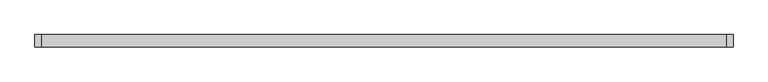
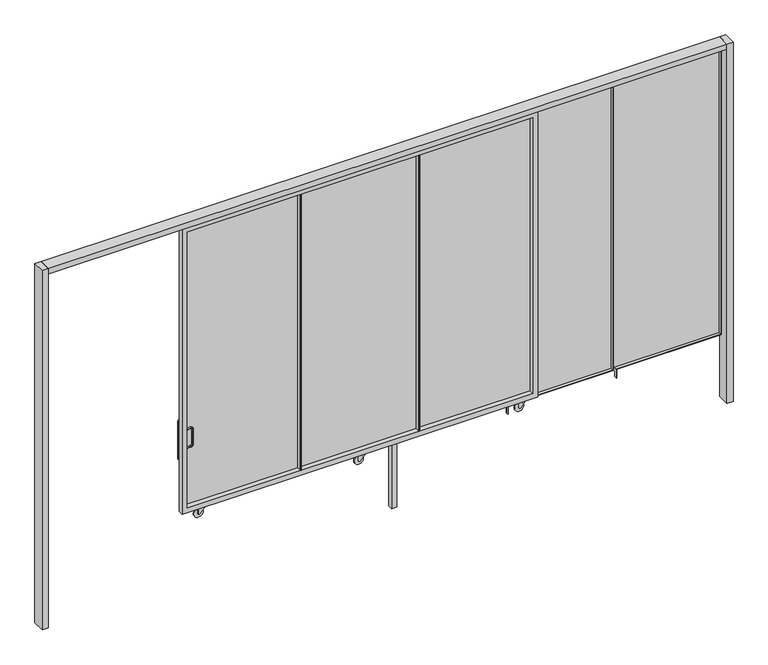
"""IFC4 building model written with IfcOpenShell, lengths in millimetres: furniture geometry, H102 Portón corredizo vehicular : H102 Portón corredizo vehicular."""

from ifc_helpers import new_model, si_unit, point, frame, frame_2d, origin, place, context, project, spatial, polyline, circle_curve, ellipse_curve, trimmed, segment, composite_curve, outline, extrude, source, transform, mapped, element, save
from ifc_brep_helpers import plane_surface, cylinder_surface, revolved_surface, advanced_brep


def furniture_f331ff0f(model_context):
    return source(origin(), model_context, "Body", "SolidModel", [
        extrude(outline(polyline([(-201.1024258, 23.0), (-271.1024258, 23.0), (-271.1024258, 47.0), (-201.1024258, 47.0), (-201.1024258, 23.0)])), frame((0.0, 0.0, 102.0), z_axis=(0.0, 0.0, 1.0), x_axis=(1.0, 0.0, 0.0)), (0.0, 0.0, 1.0), 3.0),
        extrude(outline(composite_curve([segment(polyline([(105.0, -271.1024258), (45.0, -271.1024258)]), True, "CONTINUOUS"), segment(trimmed(circle_curve(frame_2d((45.0, -261.1024258)), 10.0), [point((45.0, -271.1024258))], [point((38.2006885, -253.7696662))], False, "CARTESIAN"), True, "CONTINUOUS"), segment(polyline([(38.2006885, -253.7696662), (95.0, -201.1024258), (105.0, -201.1024258), (105.0, -271.1024258)]), True, "CONTINUOUS")], self_intersect=False)), frame((0.0, 20.0, 0.0), z_axis=(0.0, 1.0, 0.0), x_axis=(0.0, 0.0, 1.0)), (0.0, 0.0, 1.0), 3.0),
        extrude(outline(composite_curve([segment(polyline([(105.0, -271.1024258), (45.0, -271.1024258)]), True, "CONTINUOUS"), segment(trimmed(circle_curve(frame_2d((45.0, -261.1024258)), 10.0), [point((45.0, -271.1024258))], [point((38.2006885, -253.7696662))], False, "CARTESIAN"), True, "CONTINUOUS"), segment(polyline([(38.2006885, -253.7696662), (95.0, -201.1024258), (105.0, -201.1024258), (105.0, -271.1024258)]), True, "CONTINUOUS")], self_intersect=False)), frame((0.0, 47.0, 0.0), z_axis=(0.0, 1.0, 0.0), x_axis=(0.0, 0.0, 1.0)), (0.0, 0.0, 1.0), 3.0),
        extrude(outline(composite_curve([segment(trimmed(circle_curve(frame_2d((45.0, -261.1024258)), 45.0), [point((45.0, -306.1024258))], [point((45.0, -216.1024258))], False, "CARTESIAN"), True, "CONTINUOUS"), segment(trimmed(circle_curve(frame_2d((45.0, -261.1024258)), 45.0), [point((45.0, -216.1024258))], [point((45.0, -306.1024258))], False, "CARTESIAN"), True, "CONTINUOUS")], self_intersect=False)), frame((0.0, 30.0, 0.0), z_axis=(0.0, 1.0, 0.0), x_axis=(0.0, 0.0, 1.0)), (0.0, 0.0, 1.0), 10.0),
        advanced_brep(
        [(-1933.6024258, 14.0, 949.0), (-1933.6024258, 26.0, 949.0), (-1891.6024258, 14.0, 949.0), (-1891.6024258, 26.0, 949.0), (-1877.6024258, 26.0, 935.0), (-1877.6024258, 14.0, 935.0), (-1877.6024258, 14.0, 775.0), (-1877.6024258, 26.0, 775.0), (-1933.6024258, 14.0, 761.0), (-1933.6024258, 26.0, 761.0), (-1891.6024258, 26.0, 761.0), (-1891.6024258, 14.0, 761.0)],
        [
            (0, 1, circle_curve(frame((-1933.6024258, 20.0, 949.0), z_axis=(-1.0, 0.0, 0.0), x_axis=(0.0, 1.0, 0.0)), 6.0)),
            (1, 0, circle_curve(frame((-1933.6024258, 20.0, 949.0), z_axis=(-1.0, 0.0, 0.0), x_axis=(0.0, 1.0, 0.0)), 6.0)),
            (0, 2),
            (2, 3, circle_curve(frame((-1891.6024258, 20.0, 949.0), z_axis=(-1.0, 0.0, 0.0), x_axis=(0.0, 1.0, 0.0)), 6.0)),
            (3, 1),
            (3, 2, circle_curve(frame((-1891.6024258, 20.0, 949.0), z_axis=(-1.0, 0.0, 0.0), x_axis=(0.0, 1.0, 0.0)), 6.0)),
            (4, 5, circle_curve(frame((-1877.6024258, 20.0, 935.0), z_axis=(0.0, 0.0, -1.0), x_axis=(0.0, 1.0, 0.0)), 6.0)),
            (5, 6),
            (6, 7, circle_curve(frame((-1877.6024258, 20.0, 775.0), z_axis=(0.0, 0.0, 1.0), x_axis=(0.0, 1.0, 0.0)), 6.0)),
            (7, 4),
            (5, 4, circle_curve(frame((-1877.6024258, 20.0, 935.0), z_axis=(0.0, 0.0, -1.0), x_axis=(0.0, 1.0, 0.0)), 6.0)),
            (7, 6, circle_curve(frame((-1877.6024258, 20.0, 775.0), z_axis=(0.0, 0.0, 1.0), x_axis=(0.0, 1.0, 0.0)), 6.0)),
            (8, 9, circle_curve(frame((-1933.6024258, 20.0, 761.0), z_axis=(-1.0, 0.0, 0.0), x_axis=(0.0, 1.0, 0.0)), 6.0)),
            (9, 8, circle_curve(frame((-1933.6024258, 20.0, 761.0), z_axis=(-1.0, 0.0, 0.0), x_axis=(0.0, 1.0, 0.0)), 6.0)),
            (10, 11, circle_curve(frame((-1891.6024258, 20.0, 761.0), z_axis=(-1.0, 0.0, 0.0), x_axis=(0.0, 1.0, 0.0)), 6.0)),
            (11, 8),
            (9, 10),
            (11, 10, circle_curve(frame((-1891.6024258, 20.0, 761.0), z_axis=(-1.0, 0.0, 0.0), x_axis=(0.0, 1.0, 0.0)), 6.0)),
            (4, 3, circle_curve(frame((-1891.6024258, 26.0, 935.0), z_axis=(0.0, -1.0, 0.0), x_axis=(0.0, 0.0, 1.0)), 14.0)),
            (2, 5, circle_curve(frame((-1891.6024258, 14.0, 935.0), z_axis=(0.0, 1.0, 0.0), x_axis=(0.0, 0.0, 1.0)), 14.0)),
            (10, 7, circle_curve(frame((-1891.6024258, 26.0, 775.0), z_axis=(0.0, -1.0, 0.0), x_axis=(1.0, 0.0, 0.0)), 14.0)),
            (6, 11, circle_curve(frame((-1891.6024258, 14.0, 775.0), z_axis=(0.0, 1.0, 0.0), x_axis=(1.0, 0.0, 0.0)), 14.0)),
        ],
        [
            plane_surface(frame((-1933.6024258, 20.0, 955.0), z_axis=(-1.0, 0.0, 0.0), x_axis=(0.0, 1.0, 0.0))),
            cylinder_surface(frame((-1933.6024258, 20.0, 949.0), z_axis=(-1.0, 0.0, 0.0), x_axis=(0.0, 1.0, 0.0)), 6.0),
            cylinder_surface(frame((-1877.6024258, 20.0, 935.0), z_axis=(0.0, 0.0, 1.0), x_axis=(0.0, 1.0, 0.0)), 6.0),
            plane_surface(frame((-1933.6024258, 20.0, 755.0), z_axis=(-1.0, 0.0, 0.0), x_axis=(0.0, 1.0, 0.0))),
            cylinder_surface(frame((-1891.6024258, 20.0, 761.0), z_axis=(1.0, 0.0, 0.0), x_axis=(0.0, 1.0, 0.0)), 6.0),
            revolved_surface(trimmed(ellipse_curve(frame((-1891.6024258, 20.0, 949.0), z_axis=(-1.0, 0.0, 0.0), x_axis=(0.0, 1.0, 0.0)), 6.0, 6.0), [point((-1891.6024258, 14.0, 949.0))], [point((-1891.6024258, 26.0, 949.0))], True, "CARTESIAN"), (-1891.6024258, 20.0, 935.0), (0.0, 1.0, 0.0)),
            revolved_surface(trimmed(ellipse_curve(frame((-1891.6024258, 20.0, 949.0), z_axis=(-1.0, 0.0, 0.0), x_axis=(0.0, 1.0, 0.0)), 6.0, 6.0), [point((-1891.6024258, 26.0, 949.0))], [point((-1891.6024258, 14.0, 949.0))], True, "CARTESIAN"), (-1891.6024258, 20.0, 935.0), (0.0, 1.0, 0.0)),
            revolved_surface(trimmed(ellipse_curve(frame((-1877.6024258, 20.0, 775.0), z_axis=(0.0, 0.0, 1.0), x_axis=(0.0, 1.0, 0.0)), 6.0, 6.0), [point((-1877.6024258, 14.0, 775.0))], [point((-1877.6024258, 26.0, 775.0))], True, "CARTESIAN"), (-1891.6024258, 20.0, 775.0), (0.0, 1.0, 0.0)),
            revolved_surface(trimmed(ellipse_curve(frame((-1877.6024258, 20.0, 775.0), z_axis=(0.0, 0.0, 1.0), x_axis=(0.0, 1.0, 0.0)), 6.0, 6.0), [point((-1877.6024258, 26.0, 775.0))], [point((-1877.6024258, 14.0, 775.0))], True, "CARTESIAN"), (-1891.6024258, 20.0, 775.0), (0.0, 1.0, 0.0)),
        ],
        [
            (0, [[1, 2]]),
            (1, [[-1, 3, 4, 5]]),
            (1, [[-2, -5, 6, -3]]),
            (2, [[7, 8, 9, 10]]),
            (2, [[11, -10, 12, -8]]),
            (3, [[13, 14]]),
            (4, [[15, 16, -14, 17]]),
            (4, [[18, -17, -13, -16]]),
            (5, [[19, -4, 20, -7]]),
            (6, [[-20, -6, -19, -11]]),
            (7, [[21, -9, 22, -15]]),
            (8, [[-22, -12, -21, -18]]),
        ],
    ),
        advanced_brep(
        [(-1971.3024258, 60.0, 987.0), (-1945.9024258, 60.0, 987.0), (-1945.9024258, 97.3, 987.0), (-1971.3024258, 97.3, 987.0), (-1945.9024258, 97.3, 612.4), (-1971.3024258, 97.3, 612.4), (-1971.3024258, 60.0, 612.4), (-1945.9024258, 60.0, 612.4)],
        [
            (0, 1, circle_curve(frame((-1958.6024258, 60.0, 987.0), z_axis=(0.0, -1.0, 0.0), x_axis=(1.0, 0.0, 0.0)), 12.7)),
            (1, 0, circle_curve(frame((-1958.6024258, 60.0, 987.0), z_axis=(0.0, -1.0, 0.0), x_axis=(1.0, 0.0, 0.0)), 12.7)),
            (1, 2),
            (2, 3, ellipse_curve(frame((-1958.6024258, 97.3, 987.0), z_axis=(0.0, -0.7071067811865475, 0.7071067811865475), x_axis=(0.0, -0.7071067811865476, -0.7071067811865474)), 17.9605122, 12.7)),
            (3, 0),
            (3, 2, ellipse_curve(frame((-1958.6024258, 97.3, 987.0), z_axis=(0.0, -0.7071067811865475, 0.7071067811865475), x_axis=(0.0, -0.7071067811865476, -0.7071067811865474)), 17.9605122, 12.7)),
            (2, 4),
            (4, 5, ellipse_curve(frame((-1958.6024258, 97.3, 612.4), z_axis=(0.0, 0.7071067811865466, 0.7071067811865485), x_axis=(0.0, -0.7071067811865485, 0.7071067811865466)), 17.9605122, 12.7)),
            (5, 3),
            (5, 4, ellipse_curve(frame((-1958.6024258, 97.3, 612.4), z_axis=(0.0, 0.7071067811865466, 0.7071067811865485), x_axis=(0.0, -0.7071067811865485, 0.7071067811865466)), 17.9605122, 12.7)),
            (6, 7, circle_curve(frame((-1958.6024258, 60.0, 612.4), z_axis=(0.0, -1.0, 0.0), x_axis=(1.0, 0.0, 0.0)), 12.7)),
            (7, 6, circle_curve(frame((-1958.6024258, 60.0, 612.4), z_axis=(0.0, -1.0, 0.0), x_axis=(1.0, 0.0, 0.0)), 12.7)),
            (4, 7),
            (6, 5),
        ],
        [
            plane_surface(frame((-1958.6024258, 60.0, 999.7), z_axis=(0.0, -1.0, 0.0), x_axis=(1.0, 0.0, 0.0))),
            cylinder_surface(frame((-1958.6024258, 60.0, 987.0), z_axis=(0.0, -1.0, 0.0), x_axis=(1.0, 0.0, 0.0)), 12.7),
            cylinder_surface(frame((-1958.6024258, 97.3, 999.7), z_axis=(0.0, 0.0, 1.0), x_axis=(1.0, 0.0, 0.0)), 12.7),
            plane_surface(frame((-1958.6024258, 60.0, 599.7), z_axis=(0.0, -1.0, 0.0), x_axis=(1.0, 0.0, 0.0))),
            cylinder_surface(frame((-1958.6024258, 110.0, 612.4), z_axis=(0.0, 1.0, 0.0), x_axis=(1.0, 0.0, 0.0)), 12.7),
        ],
        [
            (0, [[1, 2]]),
            (1, [[3, 4, 5, -2]]),
            (1, [[-5, 6, -3, -1]]),
            (2, [[7, 8, 9, -4]]),
            (2, [[-9, 10, -7, -6]]),
            (3, [[11, 12]]),
            (4, [[13, -11, 14, -8]]),
            (4, [[-14, -12, -13, -10]]),
        ],
    ),
        extrude(outline(polyline([(1351.3975742, 23.0), (1281.3975742, 23.0), (1281.3975742, 47.0), (1351.3975742, 47.0), (1351.3975742, 23.0)])), frame((0.0, 0.0, 102.0), z_axis=(0.0, 0.0, 1.0), x_axis=(1.0, 0.0, 0.0)), (0.0, 0.0, 1.0), 3.0),
        extrude(outline(composite_curve([segment(polyline([(105.0, 1281.3975742), (45.0, 1281.3975742)]), True, "CONTINUOUS"), segment(trimmed(circle_curve(frame_2d((45.0, 1291.3975742)), 10.0), [point((45.0, 1281.3975742))], [point((38.2006885, 1298.7303338))], False, "CARTESIAN"), True, "CONTINUOUS"), segment(polyline([(38.2006885, 1298.7303338), (95.0, 1351.3975742), (105.0, 1351.3975742), (105.0, 1281.3975742)]), True, "CONTINUOUS")], self_intersect=False)), frame((0.0, 20.0, 0.0), z_axis=(0.0, 1.0, 0.0), x_axis=(0.0, 0.0, 1.0)), (0.0, 0.0, 1.0), 3.0),
        extrude(outline(composite_curve([segment(polyline([(105.0, 1281.3975742), (45.0, 1281.3975742)]), True, "CONTINUOUS"), segment(trimmed(circle_curve(frame_2d((45.0, 1291.3975742)), 10.0), [point((45.0, 1281.3975742))], [point((38.2006885, 1298.7303338))], False, "CARTESIAN"), True, "CONTINUOUS"), segment(polyline([(38.2006885, 1298.7303338), (95.0, 1351.3975742), (105.0, 1351.3975742), (105.0, 1281.3975742)]), True, "CONTINUOUS")], self_intersect=False)), frame((0.0, 47.0, 0.0), z_axis=(0.0, 1.0, 0.0), x_axis=(0.0, 0.0, 1.0)), (0.0, 0.0, 1.0), 3.0),
        extrude(outline(composite_curve([segment(trimmed(circle_curve(frame_2d((45.0, 1291.3975742)), 45.0), [point((45.0, 1246.3975742))], [point((45.0, 1336.3975742))], False, "CARTESIAN"), True, "CONTINUOUS"), segment(trimmed(circle_curve(frame_2d((45.0, 1291.3975742)), 45.0), [point((45.0, 1336.3975742))], [point((45.0, 1246.3975742))], False, "CARTESIAN"), True, "CONTINUOUS")], self_intersect=False)), frame((0.0, 30.0, 0.0), z_axis=(0.0, 1.0, 0.0), x_axis=(0.0, 0.0, 1.0)), (0.0, 0.0, 1.0), 10.0),
        extrude(outline(polyline([(-1753.6024258, 23.0), (-1823.6024258, 23.0), (-1823.6024258, 47.0), (-1753.6024258, 47.0), (-1753.6024258, 23.0)])), frame((0.0, 0.0, 102.0), z_axis=(0.0, 0.0, 1.0), x_axis=(1.0, 0.0, 0.0)), (0.0, 0.0, 1.0), 3.0),
        extrude(outline(composite_curve([segment(polyline([(105.0, -1823.6024258), (45.0, -1823.6024258)]), True, "CONTINUOUS"), segment(trimmed(circle_curve(frame_2d((45.0, -1813.6024258)), 10.0), [point((45.0, -1823.6024258))], [point((38.2006885, -1806.2696662))], False, "CARTESIAN"), True, "CONTINUOUS"), segment(polyline([(38.2006885, -1806.2696662), (95.0, -1753.6024258), (105.0, -1753.6024258), (105.0, -1823.6024258)]), True, "CONTINUOUS")], self_intersect=False)), frame((0.0, 20.0, 0.0), z_axis=(0.0, 1.0, 0.0), x_axis=(0.0, 0.0, 1.0)), (0.0, 0.0, 1.0), 3.0),
        extrude(outline(composite_curve([segment(polyline([(105.0, -1823.6024258), (45.0, -1823.6024258)]), True, "CONTINUOUS"), segment(trimmed(circle_curve(frame_2d((45.0, -1813.6024258)), 10.0), [point((45.0, -1823.6024258))], [point((38.2006885, -1806.2696662))], False, "CARTESIAN"), True, "CONTINUOUS"), segment(polyline([(38.2006885, -1806.2696662), (95.0, -1753.6024258), (105.0, -1753.6024258), (105.0, -1823.6024258)]), True, "CONTINUOUS")], self_intersect=False)), frame((0.0, 47.0, 0.0), z_axis=(0.0, 1.0, 0.0), x_axis=(0.0, 0.0, 1.0)), (0.0, 0.0, 1.0), 3.0),
        extrude(outline(composite_curve([segment(trimmed(circle_curve(frame_2d((45.0, -1813.6024258)), 45.0), [point((45.0, -1858.6024258))], [point((45.0, -1768.6024258))], False, "CARTESIAN"), True, "CONTINUOUS"), segment(trimmed(circle_curve(frame_2d((45.0, -1813.6024258)), 45.0), [point((45.0, -1768.6024258))], [point((45.0, -1858.6024258))], False, "CARTESIAN"), True, "CONTINUOUS")], self_intersect=False)), frame((0.0, 30.0, 0.0), z_axis=(0.0, 1.0, 0.0), x_axis=(0.0, 0.0, 1.0)), (0.0, 0.0, 1.0), 10.0),
        extrude(outline(polyline([(-3285.0, 120.0), (-3285.0, 0.0), (-3345.0, 0.0), (-3345.0, 120.0), (-3285.0, 120.0)])), frame((0.0, 0.0, -600.0), z_axis=(0.0, 0.0, 1.0), x_axis=(1.0, 0.0, 0.0)), (0.0, 0.0, 1.0), 3680.0),
        extrude(outline(polyline([(3345.0, 120.0), (3345.0, 0.0), (3285.0, 0.0), (3285.0, 120.0), (3345.0, 120.0)])), frame((0.0, 0.0, -600.0), z_axis=(0.0, 0.0, 1.0), x_axis=(1.0, 0.0, 0.0)), (0.0, 0.0, 1.0), 3680.0),
        extrude(outline(polyline([(130.0, 70.0), (80.0, 70.0), (80.0, 120.0), (130.0, 120.0), (130.0, 70.0)])), frame((0.0, 0.0, -600.0), z_axis=(0.0, 0.0, 1.0), x_axis=(1.0, 0.0, 0.0)), (0.0, 0.0, 1.0), 3625.0),
        extrude(outline(polyline([(3025.0, 2233.3333333), (3025.0, 1181.6666667), (50.0, 1181.6666667), (50.0, 2233.3333333), (3025.0, 2233.3333333)]), holes=[polyline([(3018.0, 2229.8333333), (57.0, 2229.8333333), (57.0, 1185.1666667), (3018.0, 1185.1666667), (3018.0, 2229.8333333)])]), frame((0.0, 88.0, 0.0), z_axis=(0.0, 1.0, 0.0), x_axis=(0.0, 0.0, 1.0)), (0.0, 0.0, 1.0), 32.0),
        extrude(outline(polyline([(2229.8333333, 120.0), (2229.8333333, 117.0), (1185.1666667, 117.0), (1185.1666667, 120.0), (2229.8333333, 120.0)])), frame((0.0, 0.0, 57.0), z_axis=(0.0, 0.0, 1.0), x_axis=(1.0, 0.0, 0.0)), (0.0, 0.0, 1.0), 2961.0),
        extrude(outline(polyline([(309.5642409, 60.0), (309.5642409, 57.0), (-831.7690924, 57.0), (-831.7690924, 60.0), (309.5642409, 60.0)])), frame((0.0, 0.0, 150.0), z_axis=(0.0, 0.0, 1.0), x_axis=(1.0, 0.0, 0.0)), (0.0, 0.0, 1.0), 2825.0),
        extrude(outline(polyline([(-831.7690924, 60.0), (-831.7690924, 10.0), (-835.2690924, 10.0), (-835.2690924, 60.0), (-831.7690924, 60.0)])), frame((0.0, 0.0, 150.0), z_axis=(0.0, 0.0, 1.0), x_axis=(1.0, 0.0, 0.0)), (0.0, 0.0, 1.0), 2825.0),
        extrude(outline(polyline([(-835.2690924, 60.0), (-835.2690924, 10.0), (-838.7690924, 10.0), (-838.7690924, 60.0), (-835.2690924, 60.0)])), frame((0.0, 0.0, 150.0), z_axis=(0.0, 0.0, 1.0), x_axis=(1.0, 0.0, 0.0)), (0.0, 0.0, 1.0), 2825.0),
        extrude(outline(polyline([(1411.3975742, 60.0), (1411.3975742, 57.0), (316.5642409, 57.0), (316.5642409, 60.0), (1411.3975742, 60.0)])), frame((0.0, 0.0, 150.0), z_axis=(0.0, 0.0, 1.0), x_axis=(1.0, 0.0, 0.0)), (0.0, 0.0, 1.0), 2825.0),
        extrude(outline(polyline([(-838.7690924, 60.0), (-838.7690924, 57.0), (-1933.6024258, 57.0), (-1933.6024258, 60.0), (-838.7690924, 60.0)])), frame((0.0, 0.0, 150.0), z_axis=(0.0, 0.0, 1.0), x_axis=(1.0, 0.0, 0.0)), (0.0, 0.0, 1.0), 2825.0),
        extrude(outline(polyline([(316.5642409, 60.0), (316.5642409, 10.0), (313.0642409, 10.0), (313.0642409, 60.0), (316.5642409, 60.0)])), frame((0.0, 0.0, 150.0), z_axis=(0.0, 0.0, 1.0), x_axis=(1.0, 0.0, 0.0)), (0.0, 0.0, 1.0), 2825.0),
        extrude(outline(polyline([(313.0642409, 60.0), (313.0642409, 10.0), (309.5642409, 10.0), (309.5642409, 60.0), (313.0642409, 60.0)])), frame((0.0, 0.0, 150.0), z_axis=(0.0, 0.0, 1.0), x_axis=(1.0, 0.0, 0.0)), (0.0, 0.0, 1.0), 2825.0),
        extrude(outline(polyline([(3025.0, 1461.3975742), (3025.0, -1983.6024258), (100.0, -1983.6024258), (100.0, 1461.3975742), (3025.0, 1461.3975742)]), holes=[polyline([(2975.0, 1411.3975742), (150.0, 1411.3975742), (150.0, -1933.6024258), (2975.0, -1933.6024258), (2975.0, 1411.3975742)])]), frame((0.0, 10.0, 0.0), z_axis=(0.0, 1.0, 0.0), x_axis=(0.0, 0.0, 1.0)), (0.0, 0.0, 1.0), 50.0),
        extrude(outline(polyline([(3278.0, 120.0), (3278.0, 117.0), (2236.8333333, 117.0), (2236.8333333, 120.0), (3278.0, 120.0)])), frame((0.0, 0.0, 57.0), z_axis=(0.0, 0.0, 1.0), x_axis=(1.0, 0.0, 0.0)), (0.0, 0.0, 1.0), 2961.0),
        extrude(outline(polyline([(3025.0, 3285.0), (3025.0, 2233.3333333), (50.0, 2233.3333333), (50.0, 3285.0), (3025.0, 3285.0)]), holes=[polyline([(3018.0, 3278.0), (57.0, 3278.0), (57.0, 2236.8333333), (3018.0, 2236.8333333), (3018.0, 3278.0)])]), frame((0.0, 88.0, 0.0), z_axis=(0.0, 1.0, 0.0), x_axis=(0.0, 0.0, 1.0)), (0.0, 0.0, 1.0), 32.0),
        extrude(outline(polyline([(1178.1666667, 120.0), (1178.1666667, 117.0), (137.0, 117.0), (137.0, 120.0), (1178.1666667, 120.0)])), frame((0.0, 0.0, 57.0), z_axis=(0.0, 0.0, 1.0), x_axis=(1.0, 0.0, 0.0)), (0.0, 0.0, 1.0), 2961.0),
        extrude(outline(polyline([(3025.0, 1181.6666667), (3025.0, 130.0), (50.0, 130.0), (50.0, 1181.6666667), (3025.0, 1181.6666667)]), holes=[polyline([(3018.0, 1178.1666667), (57.0, 1178.1666667), (57.0, 137.0), (3018.0, 137.0), (3018.0, 1178.1666667)])]), frame((0.0, 88.0, 0.0), z_axis=(0.0, 1.0, 0.0), x_axis=(0.0, 0.0, 1.0)), (0.0, 0.0, 1.0), 32.0),
        extrude(outline(polyline([(42.0, 82.0), (117.0, 82.0), (117.0, 57.0), (67.0, 57.0), (67.0, 0.0), (42.0, 0.0), (42.0, 82.0)])), frame((1185.1666667, 0.0, 0.0), z_axis=(1.0, 0.0, 0.0), x_axis=(0.0, 1.0, 0.0)), (0.0, 0.0, 1.0), 7.0),
        extrude(outline(polyline([(42.0, 82.0), (117.0, 82.0), (117.0, 57.0), (67.0, 57.0), (67.0, 0.0), (42.0, 0.0), (42.0, 82.0)])), frame((2236.8333333, 0.0, 0.0), z_axis=(1.0, 0.0, 0.0), x_axis=(0.0, 1.0, 0.0)), (0.0, 0.0, 1.0), 7.0),
        extrude(outline(polyline([(120.0, 3080.0), (120.0, 3025.0), (112.0, 3025.0), (112.0, 3072.0), (8.0, 3072.0), (8.0, 3025.0), (0.0, 3025.0), (0.0, 3080.0), (120.0, 3080.0)])), frame((-3285.0, 0.0, 0.0), z_axis=(1.0, 0.0, 0.0), x_axis=(0.0, 1.0, 0.0)), (0.0, 0.0, 1.0), 6570.0),
    ])


if __name__ == "__main__":
    model = new_model("IFC4")
    model_context = context("Model", 3, world=origin())
    ifc_project = project(units=[si_unit("LENGTHUNIT", "METRE", prefix="MILLI")], contexts=[model_context])
    site = spatial("IfcSite", under=ifc_project)
    building = spatial("IfcBuilding", under=site)
    placement = place(None, origin())
    furniture_shape = furniture_f331ff0f(model_context)
    element("IfcFurniture", 1, ObjectType="H102 Portón corredizo vehicular : H102 Portón corredizo vehicular", at=placement, inside=building, context=model_context, shape_type="MappedRepresentation", body=[
        mapped(furniture_shape, transform((0.0, 0.0, 0.0), x_axis=(1.0, 0.0, 0.0), y_axis=(0.0, 1.0, 0.0), z_axis=(0.0, 0.0, 1.0))),
    ])
    save(model, "model.ifc")
